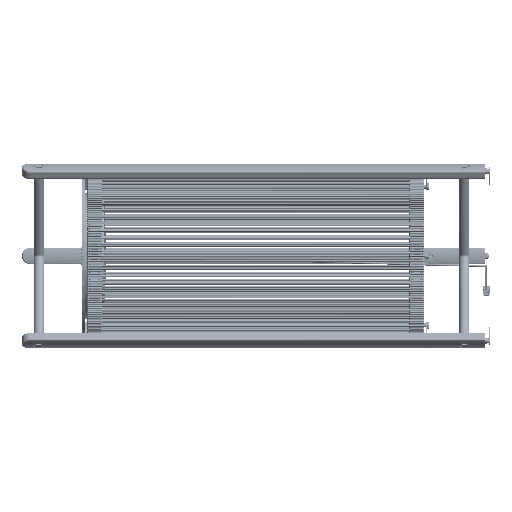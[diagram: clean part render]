
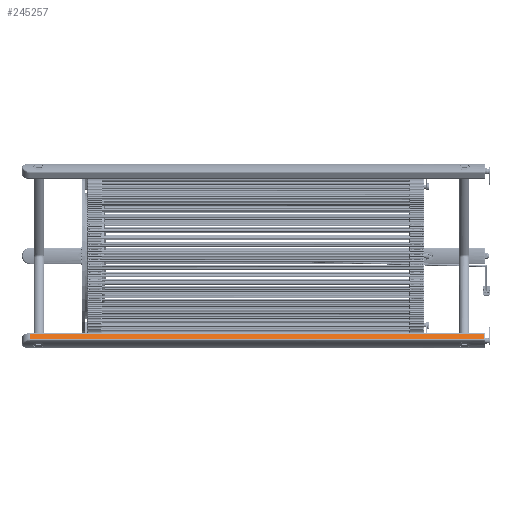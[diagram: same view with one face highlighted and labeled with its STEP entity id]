
A CAD part, left-side view. The second image highlights one B-rep face of the part: STEP entity #245257.
In plain terms, the highlighted planar face has unit normal (-0.866, 0, 0.5) as drawn and (0, 0, -1) by its records, which use the part's own axes.
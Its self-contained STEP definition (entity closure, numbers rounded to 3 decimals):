
#312 = CARTESIAN_POINT ( 'NONE',  ( -7.244, 1080., -20. ) ) ;
#13328 = LINE ( 'NONE', #284985, #21035 ) ;
#19350 = DIRECTION ( 'NONE',  ( 1., 0., 0. ) ) ;
#21035 = VECTOR ( 'NONE', #218652, 1000. ) ;
#46278 = CARTESIAN_POINT ( 'NONE',  ( 7.244, 1080., -20. ) ) ;
#46500 = CARTESIAN_POINT ( 'NONE',  ( 7.244, 0., -20. ) ) ;
#53887 = ORIENTED_EDGE ( 'NONE', *, *, #127603, .T. ) ;
#54827 = CARTESIAN_POINT ( 'NONE',  ( -12.5, 2., -20. ) ) ;
#72037 = PLANE ( 'NONE',  #263891 ) ;
#77372 = EDGE_CURVE ( 'NONE', #112403, #110104, #13328, .T. ) ;
#94820 = LINE ( 'NONE', #46500, #292047 ) ;
#108151 = CARTESIAN_POINT ( 'NONE',  ( 7.244, 2., -20. ) ) ;
#110104 = VERTEX_POINT ( 'NONE', #46278 ) ;
#112403 = VERTEX_POINT ( 'NONE', #176981 ) ;
#117354 = FACE_OUTER_BOUND ( 'NONE', #255113, .T. ) ;
#127603 = EDGE_CURVE ( 'NONE', #185992, #112403, #166316, .T. ) ;
#130992 = CARTESIAN_POINT ( 'NONE',  ( -7.244, 2., -20. ) ) ;
#136423 = ORIENTED_EDGE ( 'NONE', *, *, #77372, .T. ) ;
#166316 = LINE ( 'NONE', #312, #247039 ) ;
#171124 = LINE ( 'NONE', #54827, #238509 ) ;
#176981 = CARTESIAN_POINT ( 'NONE',  ( -7.244, 1080., -20. ) ) ;
#185992 = VERTEX_POINT ( 'NONE', #130992 ) ;
#196767 = DIRECTION ( 'NONE',  ( -1., 0., 0. ) ) ;
#209562 = DIRECTION ( 'NONE',  ( 0., -1., 0. ) ) ;
#212276 = VERTEX_POINT ( 'NONE', #108151 ) ;
#218652 = DIRECTION ( 'NONE',  ( 1., 0., 0. ) ) ;
#232021 = DIRECTION ( 'NONE',  ( 0., 0., 1. ) ) ;
#238509 = VECTOR ( 'NONE', #196767, 1000. ) ;
#240590 = EDGE_CURVE ( 'NONE', #212276, #185992, #171124, .T. ) ;
#245257 = ADVANCED_FACE ( 'NONE', ( #117354 ), #72037, .F. ) ;
#247039 = VECTOR ( 'NONE', #282385, 1000. ) ;
#255113 = EDGE_LOOP ( 'NONE', ( #292025, #274713, #53887, #136423 ) ) ;
#263891 = AXIS2_PLACEMENT_3D ( 'NONE', #277250, #232021, #19350 ) ;
#274713 = ORIENTED_EDGE ( 'NONE', *, *, #240590, .T. ) ;
#277250 = CARTESIAN_POINT ( 'NONE',  ( -12.5, 1100., -20. ) ) ;
#281282 = EDGE_CURVE ( 'NONE', #110104, #212276, #94820, .T. ) ;
#282385 = DIRECTION ( 'NONE',  ( 0., 1., 0. ) ) ;
#284985 = CARTESIAN_POINT ( 'NONE',  ( 12.5, 1080., -20. ) ) ;
#292025 = ORIENTED_EDGE ( 'NONE', *, *, #281282, .T. ) ;
#292047 = VECTOR ( 'NONE', #209562, 1000. ) ;
